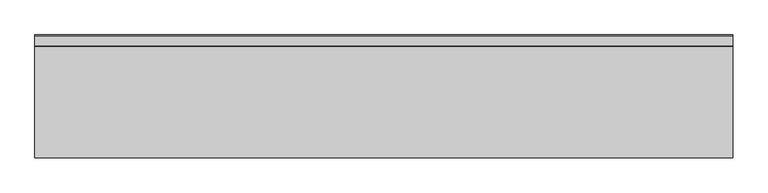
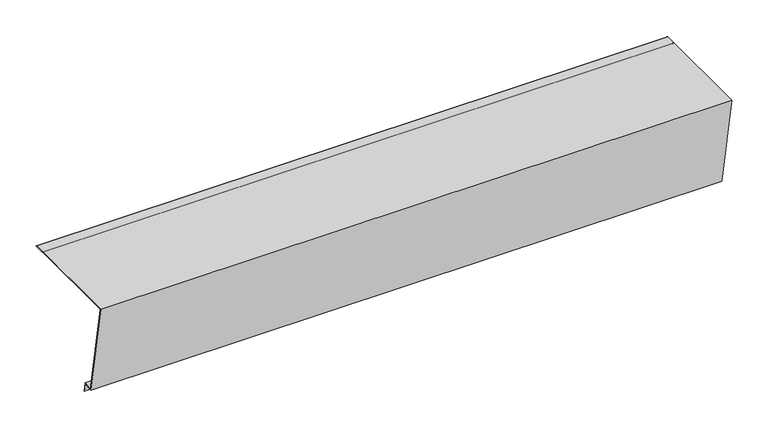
"""IFC4 building model written with IfcOpenShell, lengths in millimetres: proxy geometry, Faitiere simple plate : Faitiere simple plate."""

from ifc_helpers import new_model, si_unit, point, frame, frame_2d, origin, place, context, project, spatial, polyline, circle_curve, trimmed, segment, composite_curve, outline, extrude, source, transform, mapped, element, save


def generic_models_2b05da81(model_context):
    return source(origin(), model_context, "Body", "SweptSolid", [
        extrude(outline(composite_curve([segment(trimmed(circle_curve(frame_2d((165.9940784, -0.6836511)), 1.0), [point((165.9940784, 0.3163489))], [point((165.9940784, -1.6836511))], False, "CARTESIAN"), True, "CONTINUOUS"), segment(polyline([(165.9940784, -1.6836511), (150.9940784, -1.6836511)]), True, "CONTINUOUS"), segment(trimmed(circle_curve(frame_2d((150.9940784, -1.1836511)), 0.5), [point((150.9940784, -1.6836511))], [point((150.9940784, -0.6836511))], False, "CARTESIAN"), True, "CONTINUOUS"), segment(polyline([(150.9940784, -0.6836511), (-7.814168, -0.6836511), (18.7207055, -151.1703969), (33.4928218, -148.5656742), (36.2711927, -164.3225983), (35.2863849, -164.4962465), (32.6816622, -149.7241302), (17.909546, -152.3288528), (-9.0059216, 0.3163489), (165.9940784, 0.3163489)]), True, "CONTINUOUS")], self_intersect=False)), frame((0.0, 0.0, 0.0), z_axis=(1.0, 0.0, 0.0), x_axis=(0.0, 1.0, 0.0)), (0.0, 0.0, 1.0), 1000.0),
    ])


if __name__ == "__main__":
    model = new_model("IFC4")
    model_context = context("Model", 3, world=origin())
    ifc_project = project(units=[si_unit("LENGTHUNIT", "METRE", prefix="MILLI")], contexts=[model_context])
    site = spatial("IfcSite", under=ifc_project)
    building = spatial("IfcBuilding", under=site)
    placement = place(None, origin())
    generic_models_shape = generic_models_2b05da81(model_context)
    element("IfcBuildingElementProxy", 1, Name="Faitiere simple plate : Faitiere simple plate", ObjectType="Faitiere simple plate : Faitiere simple plate", at=placement, inside=building, context=model_context, shape_type="MappedRepresentation", body=[
        mapped(generic_models_shape, transform((0.0, 0.0, 0.0), x_axis=(1.0, 0.0, 0.0), y_axis=(0.0, 1.0, 0.0), z_axis=(0.0, 0.0, 1.0))),
    ])
    save(model, "model.ifc")
